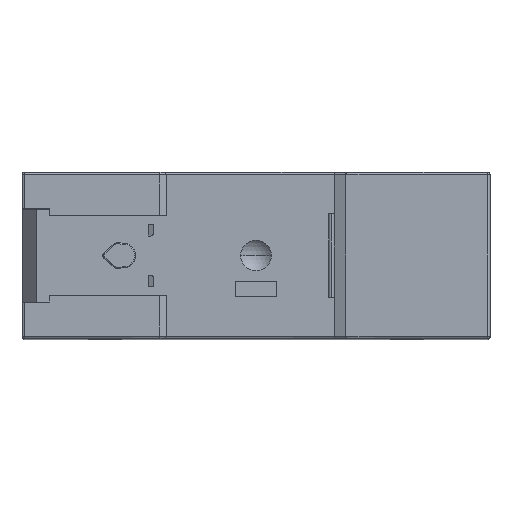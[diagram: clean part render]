
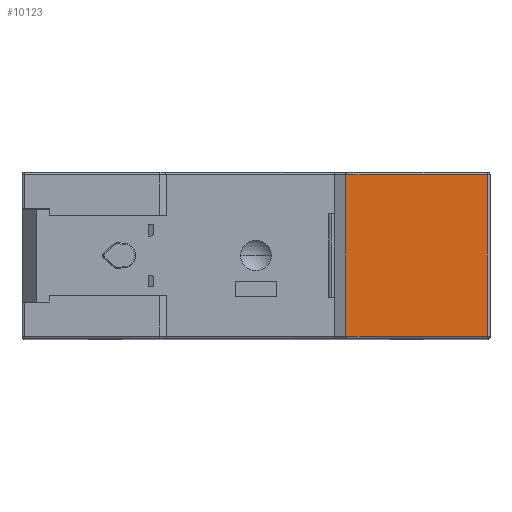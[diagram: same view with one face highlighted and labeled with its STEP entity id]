
A CAD part, top view. The second image highlights one B-rep face of the part: STEP entity #10123.
In plain terms, the highlighted planar face has unit normal (0, 0, 1).
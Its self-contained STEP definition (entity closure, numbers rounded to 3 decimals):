
#88 = AXIS2_PLACEMENT_3D ( 'NONE', #11618, #21067, #11010 ) ;
#894 = ORIENTED_EDGE ( 'NONE', *, *, #22858, .T. ) ;
#1044 = EDGE_CURVE ( 'NONE', #6998, #15484, #36915, .T. ) ;
#2040 = CARTESIAN_POINT ( 'NONE',  ( 17.404, 15.593, 97.381 ) ) ;
#4274 = CARTESIAN_POINT ( 'NONE',  ( 44.767, 15.593, 97.381 ) ) ;
#4779 = B_SPLINE_CURVE_WITH_KNOTS ( 'NONE', 3,
 ( #26036, #29307, #34873, #4274 ),
 .UNSPECIFIED., .F., .F.,
 ( 4, 4 ),
 ( 0., 1. ),
 .UNSPECIFIED. ) ;
#6998 = VERTEX_POINT ( 'NONE', #11397 ) ;
#8256 = EDGE_LOOP ( 'NONE', ( #894, #13764, #37883, #20013 ) ) ;
#8330 = PLANE ( 'NONE',  #88 ) ;
#9957 = VECTOR ( 'NONE', #37710, 1000. ) ;
#10123 = ADVANCED_FACE ( 'NONE', ( #26613 ), #8330, .F. ) ;
#10881 = VECTOR ( 'NONE', #21982, 1000. ) ;
#11010 = DIRECTION ( 'NONE',  ( 0., -1., 0. ) ) ;
#11397 = CARTESIAN_POINT ( 'NONE',  ( 17.404, -15.593, 97.381 ) ) ;
#11618 = CARTESIAN_POINT ( 'NONE',  ( 18.628, 16.096, 97.381 ) ) ;
#13764 = ORIENTED_EDGE ( 'NONE', *, *, #36568, .T. ) ;
#15484 = VERTEX_POINT ( 'NONE', #2040 ) ;
#20013 = ORIENTED_EDGE ( 'NONE', *, *, #38944, .T. ) ;
#20527 = VERTEX_POINT ( 'NONE', #35029 ) ;
#21067 = DIRECTION ( 'NONE',  ( 0., 0., -1. ) ) ;
#21982 = DIRECTION ( 'NONE',  ( 1., 0., 0. ) ) ;
#22544 = LINE ( 'NONE', #22928, #9957 ) ;
#22858 = EDGE_CURVE ( 'NONE', #20527, #30536, #4779, .T. ) ;
#22928 = CARTESIAN_POINT ( 'NONE',  ( 17.404, 15.593, 97.381 ) ) ;
#24830 = CARTESIAN_POINT ( 'NONE',  ( 17.404, -16.096, 97.381 ) ) ;
#26036 = CARTESIAN_POINT ( 'NONE',  ( 44.767, -15.593, 97.381 ) ) ;
#26613 = FACE_OUTER_BOUND ( 'NONE', #8256, .T. ) ;
#27734 = LINE ( 'NONE', #40239, #10881 ) ;
#29307 = CARTESIAN_POINT ( 'NONE',  ( 44.767, -5.198, 97.381 ) ) ;
#30536 = VERTEX_POINT ( 'NONE', #36644 ) ;
#30977 = DIRECTION ( 'NONE',  ( 0., 1., 0. ) ) ;
#33746 = VECTOR ( 'NONE', #30977, 1000. ) ;
#34873 = CARTESIAN_POINT ( 'NONE',  ( 44.767, 5.198, 97.381 ) ) ;
#35029 = CARTESIAN_POINT ( 'NONE',  ( 44.767, -15.593, 97.381 ) ) ;
#36568 = EDGE_CURVE ( 'NONE', #30536, #15484, #22544, .T. ) ;
#36644 = CARTESIAN_POINT ( 'NONE',  ( 44.767, 15.593, 97.381 ) ) ;
#36915 = LINE ( 'NONE', #24830, #33746 ) ;
#37710 = DIRECTION ( 'NONE',  ( -1., 0., 0. ) ) ;
#37883 = ORIENTED_EDGE ( 'NONE', *, *, #1044, .F. ) ;
#38944 = EDGE_CURVE ( 'NONE', #6998, #20527, #27734, .T. ) ;
#40239 = CARTESIAN_POINT ( 'NONE',  ( 44.767, -15.593, 97.381 ) ) ;
